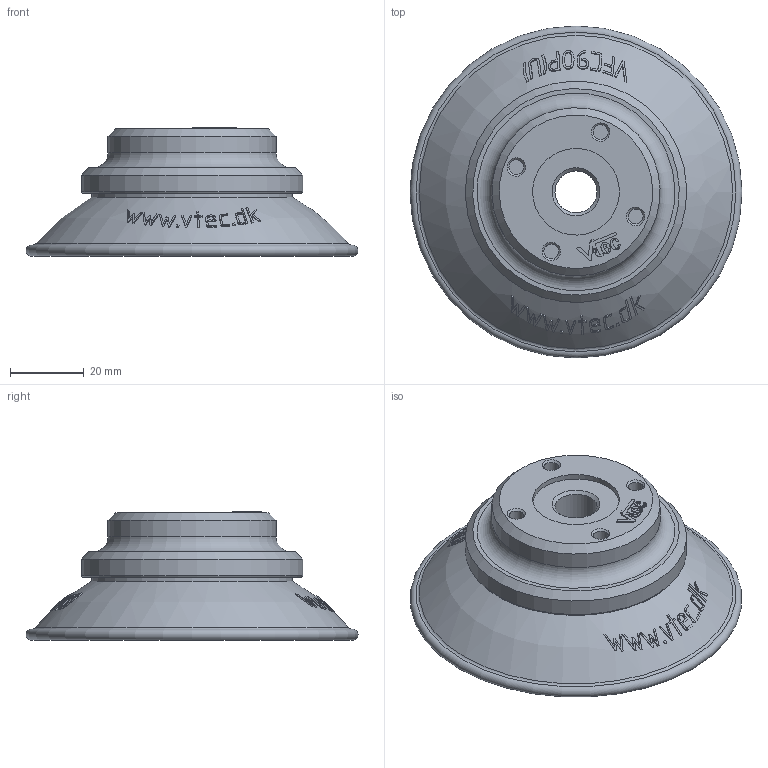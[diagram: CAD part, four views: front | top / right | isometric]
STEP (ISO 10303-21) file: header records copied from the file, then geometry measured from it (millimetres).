
FILE_DESCRIPTION( ( 'STEP AP203' ), '1' );
FILE_NAME( 'C:/Documents and Settings/Owner/官帕 拳搁/3D/Vacuum Pad/VFC series/VFC90-14F.stp', '2006-04-25T05:11:51', ( ' ' ), ( ' ' ), 'XStep 1.0', ' ', ' ' );
FILE_SCHEMA( ( 'CONFIG_CONTROL_DESIGN) ( )' ) );
Length unit declared in the file: metre
Products named in the file (3): Assem1; 1; 2
Bounding box: 90 x 90 x 34.8 mm (x, y, z)
Volume: 112066.3 mm3; surface area: 57372.5 mm2
Topology: 4 solids, 4 shells, 776 faces, 1890 edges, 1254 vertices
Faces by surface type: bspline 300, plane 180, cylinder 152, sphere 106, cone 20, torus 14, extrusion 4
Full cylindrical faces by diameter (mm): 0.791 x2, 4 x16, 6.7 x8, 11.4 x2, 15 x2, 23.5 x2, 45.6 x2, 54.5 x2, 55 x2, 60 x2
Entity records: 20374 total; most frequent: CARTESIAN_POINT 12239, ORIENTED_EDGE 1778, DIRECTION 1258, EDGE_CURVE 889, VERTEX_POINT 615, EDGE_LOOP 510, AXIS2_PLACEMENT_3D 488, FACE_OUTER_BOUND 421
